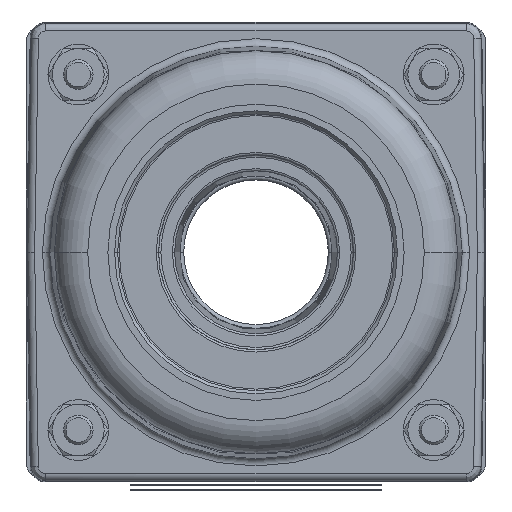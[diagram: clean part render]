
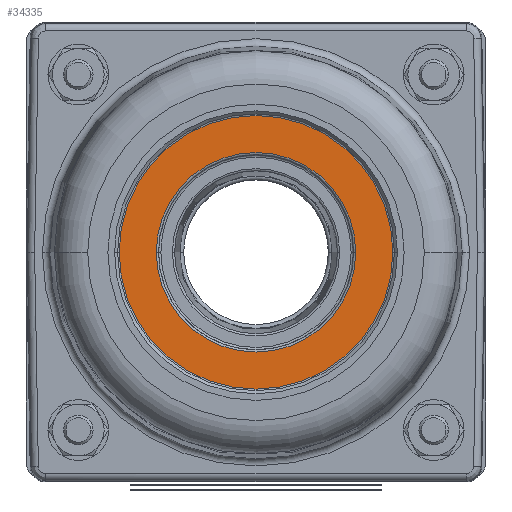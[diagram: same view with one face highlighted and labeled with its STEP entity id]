
A CAD part, front view. The second image highlights one B-rep face of the part: STEP entity #34335.
In plain terms, the highlighted planar face has unit normal (0, -1, 0).
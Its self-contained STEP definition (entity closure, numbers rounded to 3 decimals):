
#11031=CARTESIAN_POINT('',(0.,-48.5,0.));
#11032=DIRECTION('',(0.,-1.,0.));
#11033=DIRECTION('',(-1.,0.,0.));
#11034=AXIS2_PLACEMENT_3D('',#11031,#11032,#11033);
#11041=CARTESIAN_POINT('',(0.,-48.5,0.));
#11042=DIRECTION('',(0.,1.,0.));
#11043=DIRECTION('',(-1.,0.,0.));
#11044=AXIS2_PLACEMENT_3D('',#11041,#11042,#11043);
#11071=CARTESIAN_POINT('',(0.,-48.5,0.));
#11072=DIRECTION('',(0.,1.,0.));
#11073=DIRECTION('',(-1.,0.,0.));
#11074=AXIS2_PLACEMENT_3D('',#11071,#11072,#11073);
#11154=CARTESIAN_POINT('',(0.,-48.5,0.));
#11155=DIRECTION('',(0.,-1.,0.));
#11156=DIRECTION('',(-1.,0.,0.));
#11157=AXIS2_PLACEMENT_3D('',#11154,#11155,#11156);
#20365=CARTESIAN_POINT('',(-13.472,-48.5,0.));
#20366=CARTESIAN_POINT('',(13.472,-48.5,0.));
#20367=VERTEX_POINT('',#20365);
#20368=VERTEX_POINT('',#20366);
#20369=CARTESIAN_POINT('',(-18.476,-48.5,0.));
#20370=CARTESIAN_POINT('',(18.476,-48.5,0.));
#20371=VERTEX_POINT('',#20369);
#20372=VERTEX_POINT('',#20370);
#34319=CARTESIAN_POINT('',(0.,-48.5,0.));
#34320=DIRECTION('',(0.,1.,0.));
#34321=DIRECTION('',(1.,0.,0.));
#34322=AXIS2_PLACEMENT_3D('',#34319,#34320,#34321);
#34323=PLANE('',#34322);
#34324=ORIENTED_EDGE('',*,*,#34309,.F.);
#34326=ORIENTED_EDGE('',*,*,#34325,.T.);
#34327=EDGE_LOOP('',(#34324,#34326));
#34328=FACE_OUTER_BOUND('',#34327,.F.);
#34330=ORIENTED_EDGE('',*,*,#34329,.F.);
#34332=ORIENTED_EDGE('',*,*,#34331,.T.);
#34333=EDGE_LOOP('',(#34330,#34332));
#34334=FACE_BOUND('',#34333,.F.);
#34335=ADVANCED_FACE('',(#34328,#34334),#34323,.F.);
#11035=CIRCLE('',#11034,18.476);
#11045=CIRCLE('',#11044,18.476);
#11075=CIRCLE('',#11074,13.472);
#11158=CIRCLE('',#11157,13.472);
#34309=EDGE_CURVE('',#20371,#20372,#11035,.T.);
#34325=EDGE_CURVE('',#20371,#20372,#11045,.T.);
#34329=EDGE_CURVE('',#20367,#20368,#11075,.T.);
#34331=EDGE_CURVE('',#20367,#20368,#11158,.T.);
